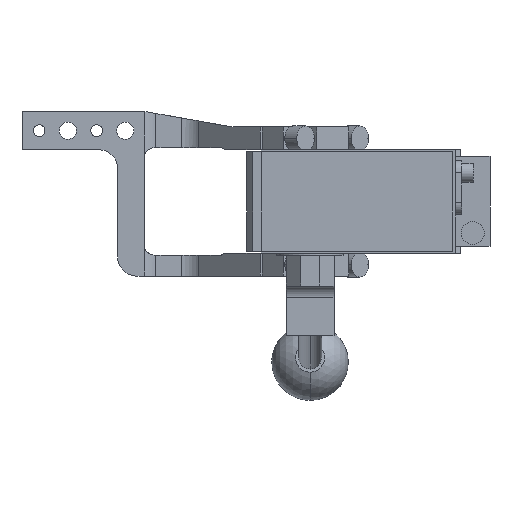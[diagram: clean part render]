
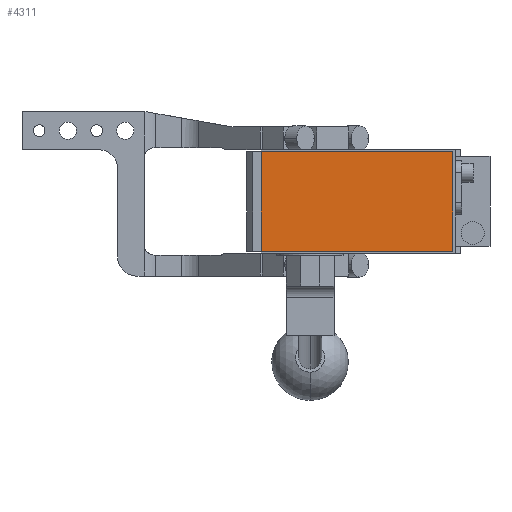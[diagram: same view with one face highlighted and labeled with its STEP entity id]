
A CAD part, front view. The second image highlights one B-rep face of the part: STEP entity #4311.
In plain terms, the highlighted planar face has unit normal (0, -1, 0).
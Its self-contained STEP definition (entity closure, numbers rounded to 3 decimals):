
#110 = CARTESIAN_POINT ( 'NONE',  ( 0., -286.5, 0. ) ) ;
#200 = DIRECTION ( 'NONE',  ( 0., 0., 1. ) ) ;
#1891 = VERTEX_POINT ( 'NONE', #2600 ) ;
#1992 = LINE ( 'NONE', #7699, #2030 ) ;
#2030 = VECTOR ( 'NONE', #11412, 1000. ) ;
#2600 = CARTESIAN_POINT ( 'NONE',  ( 81., -286.5, 26. ) ) ;
#3806 = LINE ( 'NONE', #6166, #4460 ) ;
#3990 = EDGE_CURVE ( 'NONE', #12276, #1891, #3806, .T. ) ;
#4121 = VERTEX_POINT ( 'NONE', #7640 ) ;
#4311 = ADVANCED_FACE ( 'NONE', ( #5940 ), #10551, .T. ) ;
#4390 = ORIENTED_EDGE ( 'NONE', *, *, #14976, .T. ) ;
#4418 = CARTESIAN_POINT ( 'NONE',  ( 81., -286.5, -26. ) ) ;
#4436 = EDGE_CURVE ( 'NONE', #4121, #12276, #1992, .T. ) ;
#4460 = VECTOR ( 'NONE', #200, 1000. ) ;
#4605 = EDGE_LOOP ( 'NONE', ( #9205, #14548, #14563, #4390 ) ) ;
#4791 = DIRECTION ( 'NONE',  ( 0., -1., 0. ) ) ;
#5474 = EDGE_CURVE ( 'NONE', #6260, #4121, #14755, .T. ) ;
#5940 = FACE_OUTER_BOUND ( 'NONE', #4605, .T. ) ;
#6152 = VECTOR ( 'NONE', #14125, 1000. ) ;
#6166 = CARTESIAN_POINT ( 'NONE',  ( 81., -286.5, 26. ) ) ;
#6260 = VERTEX_POINT ( 'NONE', #7901 ) ;
#6697 = CARTESIAN_POINT ( 'NONE',  ( -19., -286.5, 26. ) ) ;
#7126 = LINE ( 'NONE', #10769, #7887 ) ;
#7640 = CARTESIAN_POINT ( 'NONE',  ( -19., -286.5, -26. ) ) ;
#7699 = CARTESIAN_POINT ( 'NONE',  ( -19., -286.5, -26. ) ) ;
#7887 = VECTOR ( 'NONE', #12970, 1000. ) ;
#7901 = CARTESIAN_POINT ( 'NONE',  ( -19., -286.5, 26. ) ) ;
#9205 = ORIENTED_EDGE ( 'NONE', *, *, #5474, .T. ) ;
#9396 = DIRECTION ( 'NONE',  ( 0., 0., -1. ) ) ;
#10551 = PLANE ( 'NONE',  #11245 ) ;
#10769 = CARTESIAN_POINT ( 'NONE',  ( -19., -286.5, 26. ) ) ;
#11245 = AXIS2_PLACEMENT_3D ( 'NONE', #110, #4791, #9396 ) ;
#11412 = DIRECTION ( 'NONE',  ( 1., 0., 0. ) ) ;
#12276 = VERTEX_POINT ( 'NONE', #4418 ) ;
#12970 = DIRECTION ( 'NONE',  ( -1., 0., 0. ) ) ;
#14125 = DIRECTION ( 'NONE',  ( 0., 0., -1. ) ) ;
#14548 = ORIENTED_EDGE ( 'NONE', *, *, #4436, .T. ) ;
#14563 = ORIENTED_EDGE ( 'NONE', *, *, #3990, .T. ) ;
#14755 = LINE ( 'NONE', #6697, #6152 ) ;
#14976 = EDGE_CURVE ( 'NONE', #1891, #6260, #7126, .T. ) ;
